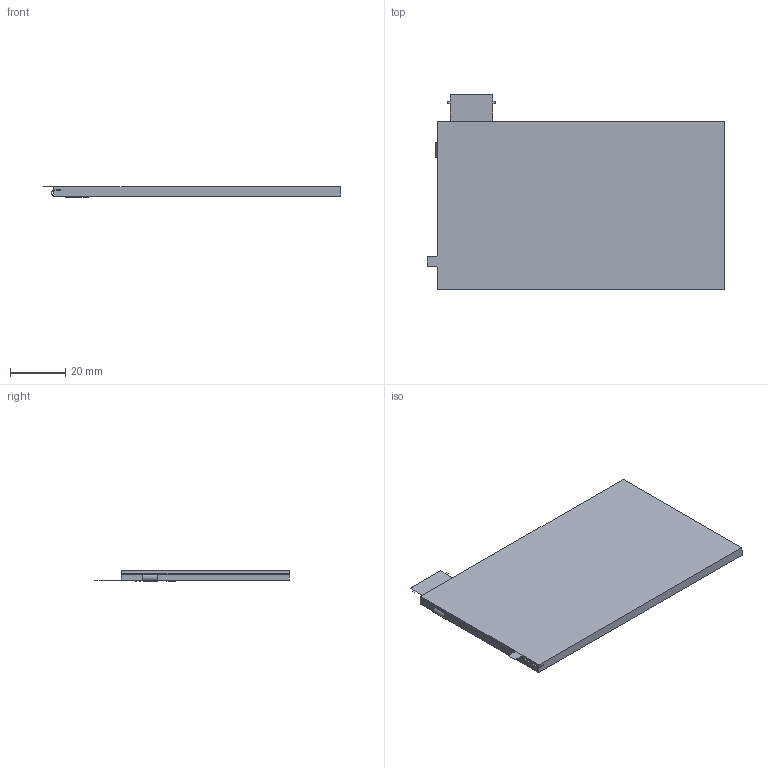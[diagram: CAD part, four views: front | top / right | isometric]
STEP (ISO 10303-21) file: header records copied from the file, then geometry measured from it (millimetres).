
FILE_DESCRIPTION(('FreeCAD Model'),'2;1');
FILE_NAME('Open CASCADE Shape Model','2026-05-20T17:59:48',(''),(''), 'Open CASCADE STEP processor 7.8','FreeCAD','Unknown');
FILE_SCHEMA(('AUTOMOTIVE_DESIGN { 1 0 10303 214 1 1 1 1 }'));
Length unit declared in the file: millimetre
Products named in the file (1): Body
Bounding box: 108.25 x 70.8 x 3.99 mm (x, y, z)
Volume: 20824 mm3; surface area: 25575.3 mm2
Topology: 1 solids, 2 shells, 163 faces, 435 edges, 285 vertices
Faces by surface type: plane 144, cylinder 19
Entity records: 5011 total; most frequent: CARTESIAN_POINT 884, ORIENTED_EDGE 870, DIRECTION 801, EDGE_CURVE 435, LINE 397, VECTOR 397, VERTEX_POINT 285, AXIS2_PLACEMENT_3D 202
